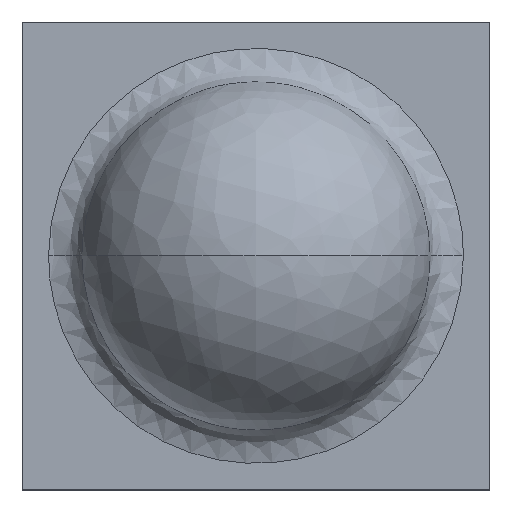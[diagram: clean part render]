
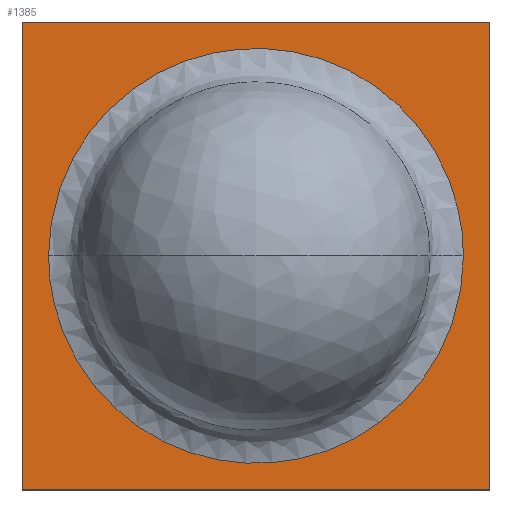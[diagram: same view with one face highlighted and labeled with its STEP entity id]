
A CAD part, top view. The second image highlights one B-rep face of the part: STEP entity #1385.
In plain terms, the highlighted planar face has unit normal (0, 0, 1).
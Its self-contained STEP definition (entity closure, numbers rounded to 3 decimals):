
#71=FACE_BOUND('',#2159,.T.);
#313=(
BOUNDED_CURVE()
B_SPLINE_CURVE(2,(#12304,#12305,#12306,#12307,#12308),.UNSPECIFIED.,.F.,
 .F.)
B_SPLINE_CURVE_WITH_KNOTS((3,2,3),(-4.805,-2.403,
0.),.UNSPECIFIED.)
CURVE()
GEOMETRIC_REPRESENTATION_ITEM()
RATIONAL_B_SPLINE_CURVE((1.,0.707,1.,0.707,1.))
REPRESENTATION_ITEM('')
);
#317=(
BOUNDED_CURVE()
B_SPLINE_CURVE(2,(#12320,#12321,#12322,#12323,#12324),.UNSPECIFIED.,.F.,
 .F.)
B_SPLINE_CURVE_WITH_KNOTS((3,2,3),(-4.805,-2.403,
0.),.UNSPECIFIED.)
CURVE()
GEOMETRIC_REPRESENTATION_ITEM()
RATIONAL_B_SPLINE_CURVE((1.,0.707,1.,0.707,1.))
REPRESENTATION_ITEM('')
);
#1385=ADVANCED_FACE('',(#1768,#71),#6486,.T.);
#1768=FACE_OUTER_BOUND('',#2158,.T.);
#2158=EDGE_LOOP('',(#3594,#3595,#3596,#3597));
#2159=EDGE_LOOP('',(#3598,#3599));
#3594=ORIENTED_EDGE('',*,*,#4849,.F.);
#3595=ORIENTED_EDGE('',*,*,#4850,.F.);
#3596=ORIENTED_EDGE('',*,*,#4851,.F.);
#3597=ORIENTED_EDGE('',*,*,#4848,.F.);
#3598=ORIENTED_EDGE('',*,*,#4846,.T.);
#3599=ORIENTED_EDGE('',*,*,#4842,.T.);
#4842=EDGE_CURVE('',#6157,#6158,#313,.T.);
#4846=EDGE_CURVE('',#6158,#6157,#317,.T.);
#4848=EDGE_CURVE('',#6159,#6160,#5565,.T.);
#4849=EDGE_CURVE('',#6161,#6159,#5566,.T.);
#4850=EDGE_CURVE('',#6162,#6161,#5567,.T.);
#4851=EDGE_CURVE('',#6160,#6162,#5568,.T.);
#5565=B_SPLINE_CURVE_WITH_KNOTS('',1,(#12330,#12331),.UNSPECIFIED.,.F.,
 .F.,(2,2),(-3.45,0.),.UNSPECIFIED.);
#5566=B_SPLINE_CURVE_WITH_KNOTS('',1,(#12332,#12333),.UNSPECIFIED.,.F.,
 .F.,(2,2),(-3.45,0.),.UNSPECIFIED.);
#5567=B_SPLINE_CURVE_WITH_KNOTS('',1,(#12334,#12335),.UNSPECIFIED.,.F.,
 .F.,(2,2),(-3.45,0.),.UNSPECIFIED.);
#5568=B_SPLINE_CURVE_WITH_KNOTS('',1,(#12336,#12337),.UNSPECIFIED.,.F.,
 .F.,(2,2),(-3.45,0.),.UNSPECIFIED.);
#6157=VERTEX_POINT('',#12288);
#6158=VERTEX_POINT('',#12289);
#6159=VERTEX_POINT('',#12290);
#6160=VERTEX_POINT('',#12291);
#6161=VERTEX_POINT('',#12292);
#6162=VERTEX_POINT('',#12293);
#6486=PLANE('',#6855);
#6855=AXIS2_PLACEMENT_3D('',#12279,#7188,$);
#7188=DIRECTION('',(0.,0.,1.));
#12279=CARTESIAN_POINT('',(2.07,-2.07,-0.025));
#12288=CARTESIAN_POINT('',(1.53,0.,-0.025));
#12289=CARTESIAN_POINT('',(-1.53,0.,-0.025));
#12290=CARTESIAN_POINT('',(-1.725,-1.725,-0.025));
#12291=CARTESIAN_POINT('',(-1.725,1.725,-0.025));
#12292=CARTESIAN_POINT('',(1.725,-1.725,-0.025));
#12293=CARTESIAN_POINT('',(1.725,1.725,-0.025));
#12304=CARTESIAN_POINT('',(1.53,0.,-0.025));
#12305=CARTESIAN_POINT('',(1.53,-1.53,-0.025));
#12306=CARTESIAN_POINT('',(0.,-1.53,-0.025));
#12307=CARTESIAN_POINT('',(-1.53,-1.53,-0.025));
#12308=CARTESIAN_POINT('',(-1.53,0.,-0.025));
#12320=CARTESIAN_POINT('',(-1.53,0.,-0.025));
#12321=CARTESIAN_POINT('',(-1.53,1.53,-0.025));
#12322=CARTESIAN_POINT('',(0.,1.53,-0.025));
#12323=CARTESIAN_POINT('',(1.53,1.53,-0.025));
#12324=CARTESIAN_POINT('',(1.53,0.,-0.025));
#12330=CARTESIAN_POINT('',(-1.725,-1.725,-0.025));
#12331=CARTESIAN_POINT('',(-1.725,1.725,-0.025));
#12332=CARTESIAN_POINT('',(1.725,-1.725,-0.025));
#12333=CARTESIAN_POINT('',(-1.725,-1.725,-0.025));
#12334=CARTESIAN_POINT('',(1.725,1.725,-0.025));
#12335=CARTESIAN_POINT('',(1.725,-1.725,-0.025));
#12336=CARTESIAN_POINT('',(-1.725,1.725,-0.025));
#12337=CARTESIAN_POINT('',(1.725,1.725,-0.025));
